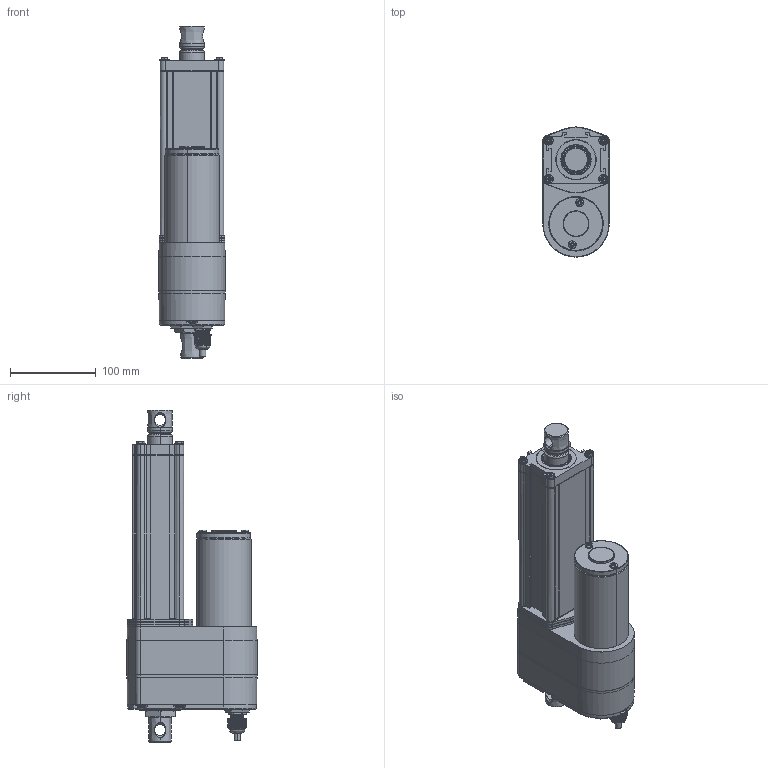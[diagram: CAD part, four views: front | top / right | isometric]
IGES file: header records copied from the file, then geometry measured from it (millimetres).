
Start section: SolidWorks IGES file using analytic representation for surfaces
Global section: file name: C:\Users\lynn\Desktop\工作用資料夾\3D CAD Models Community\0-給產品部\ID12\新增IP69K\ID12-A-100-LT&POT-IP69K.IGS; native system: SolidWorks 2020; preprocessor: SolidWorks 2020; author: lynn; date: 221019.170047; units: millimetre
Bounding box: 77.3 x 151.8 x 387.5 mm (x, y, z)
Surface area: 225079.4 mm2 (no closed solid volume)
Topology: 0 solids, 0 shells, 2583 faces, 24620 edges, 24592 vertices
Faces by surface type: bspline 1655, revolution 928
